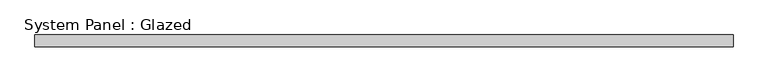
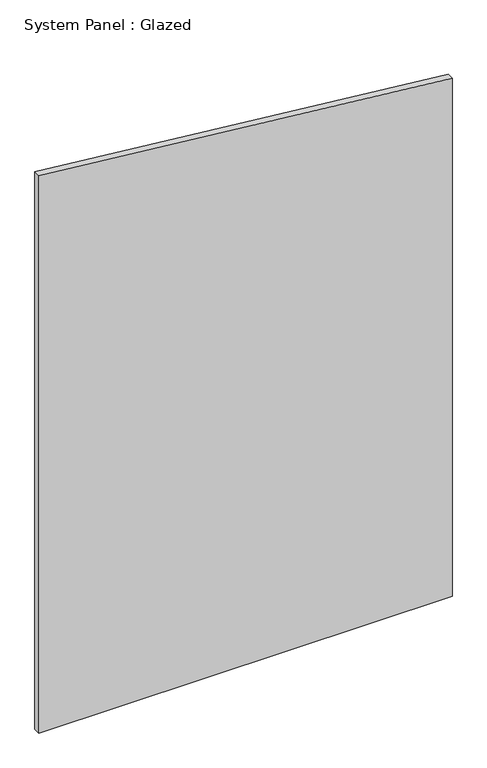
"""IFC4 building model written with IfcOpenShell, lengths in millimetres: plate geometry, System Panel : Glazed."""

from ifc_helpers import new_model, si_unit, frame, origin, place, context, project, spatial, polyline, outline, extrude, source, transform, mapped, element, save


def system_panel_glazed_dc09e7e3(model_context):
    return source(origin(), model_context, "Body", "SweptSolid", [
        extrude(outline(polyline([(0.0, -735.8695652), (0.0, 735.8695652), (1951.3453464, 735.8695652), (2099.3283251, -735.8695652), (0.0, -735.8695652)])), frame((0.0, 24.5, 0.0), z_axis=(0.0, 1.0, 0.0), x_axis=(0.0, 0.0, 1.0)), (0.0, 0.0, 1.0), 25.0),
    ])


if __name__ == "__main__":
    model = new_model("IFC4")
    model_context = context("Model", 3, world=origin())
    ifc_project = project(units=[si_unit("LENGTHUNIT", "METRE", prefix="MILLI")], contexts=[model_context])
    site = spatial("IfcSite", under=ifc_project)
    building = spatial("IfcBuilding", under=site)
    placement = place(None, origin())
    system_panel_glazed_shape = system_panel_glazed_dc09e7e3(model_context)
    element("IfcPlate", 1, ObjectType="System Panel : Glazed", at=placement, inside=building, context=model_context, shape_type="MappedRepresentation", body=[
        mapped(system_panel_glazed_shape, transform((0.0, 0.0, 0.0), x_axis=(1.0, 0.0, 0.0), y_axis=(0.0, 1.0, 0.0), z_axis=(0.0, 0.0, 1.0))),
    ])
    save(model, "model.ifc")
